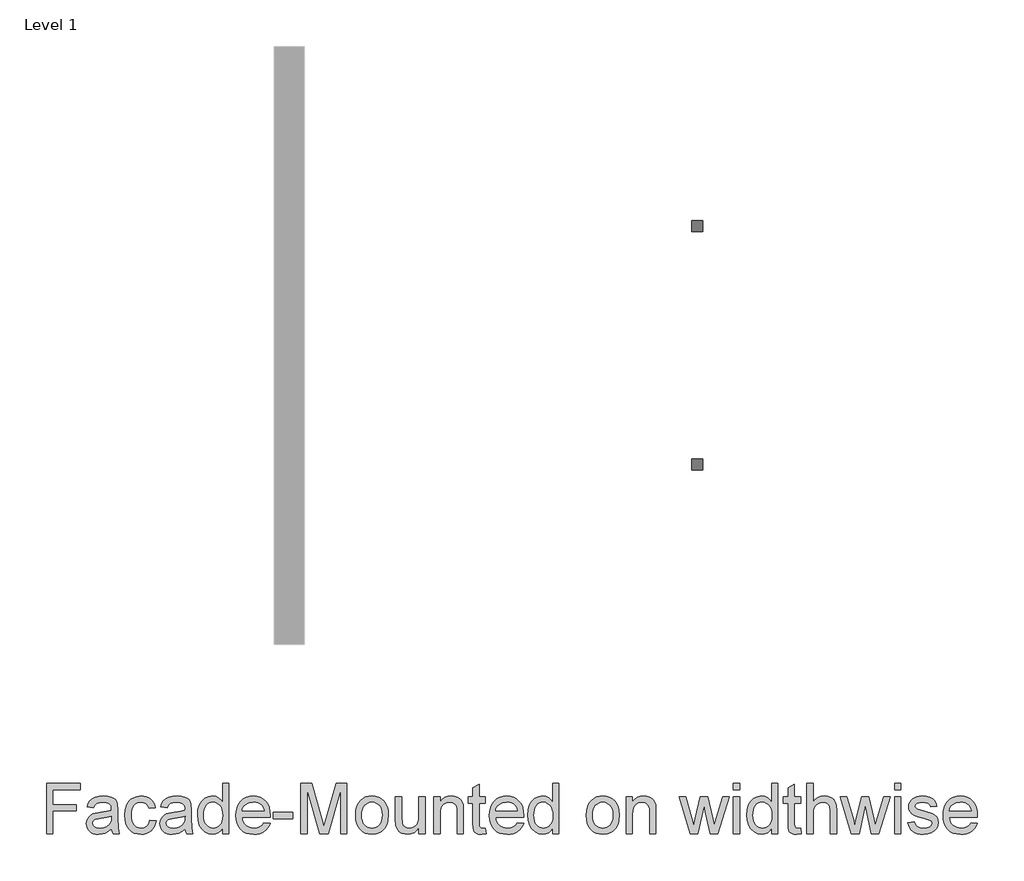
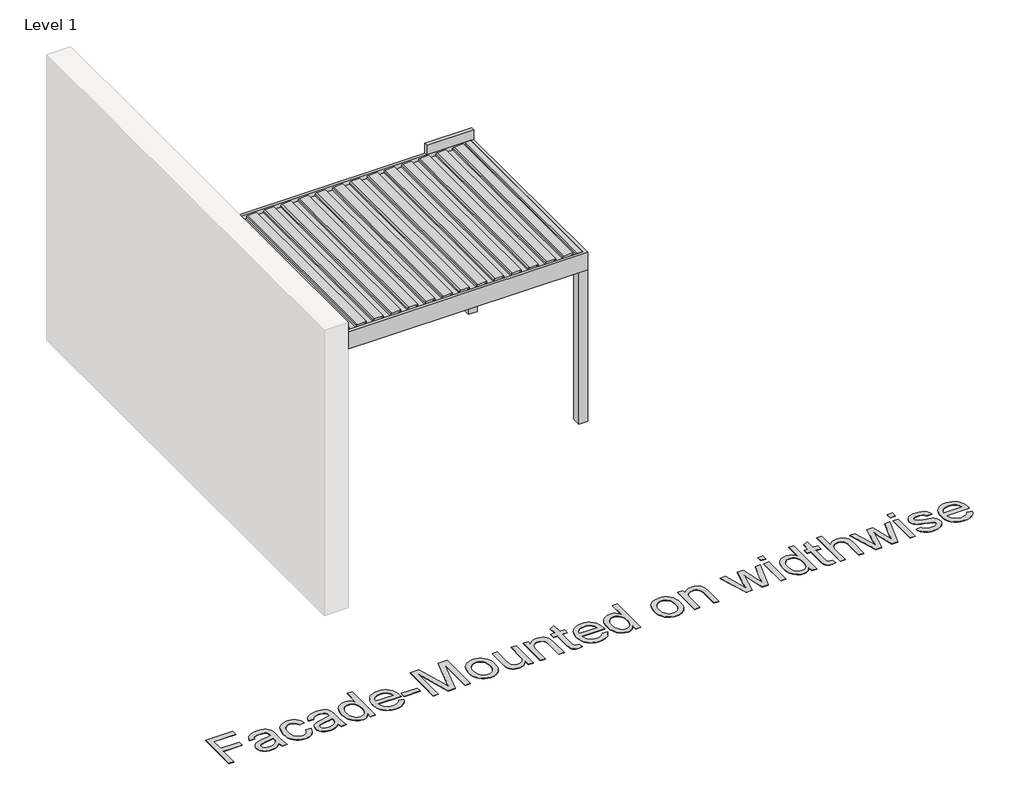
# One storey, part 27 of 47: 2 proxies.
"""IFC4 building model written with IfcOpenShell, lengths in millimetres."""

from ifc_helpers import new_model, si_unit, origin, origin_with_axes, place, context, project, spatial, polyline, outline, extrude, transform, mapped, element, save
from components import generic_models_1aad0606

model = new_model("IFC4")

# Units and contexts
model_context = context("Model", 3, world=origin())
ifc_project = project(units=[si_unit("LENGTHUNIT", "METRE", prefix="MILLI")], contexts=[model_context])

# Site, building, storey
site = spatial("IfcSite", under=ifc_project)
building = spatial("IfcBuilding", under=site)
storey = spatial("IfcBuildingStorey", under=building, Name="Level 1", Elevation=0.0)

# Proxies
placement = place(None, origin())
generic_models_shape = generic_models_1aad0606(model_context)
element("IfcBuildingElementProxy", 1, Name="Renson_Algarve_Single : Algarve - Single", ObjectType="Renson_Algarve_Single : Algarve - Single", at=placement, inside=storey, context=model_context, shape_type="MappedRepresentation", body=[
    mapped(generic_models_shape, transform((5781.4785763, 40772.1593685, 0.0), x_axis=(1.0, 0.0, 0.0), y_axis=(0.0, 1.0, 0.0), z_axis=(0.0, 0.0, 1.0))),
])
element("IfcBuildingElementProxy", 2, Name="500mm Arial", ObjectType="500mm Arial", at=placement, inside=storey, context=model_context, shape_type="SweptSolid", body=[
    extrude(outline(polyline([(1196.8462522, 35872.1593685), (1196.8462522, 36374.4409192), (1534.3166691, 36374.4409192), (1534.3166691, 36311.6557254), (1259.631446, 36311.6557254), (1259.631446, 36162.54089), (1495.0759229, 36162.54089), (1495.0759229, 36099.7556962), (1259.631446, 36099.7556962), (1259.631446, 35872.1593685), (1196.8462522, 35872.1593685)])), origin_with_axes(), (0.0, 0.0, 1.0), 5.0),
    extrude(outline(polyline([(1848.2426383, 35919.2482639), (1818.2449273, 35893.527181), (1787.3581681, 35876.6965797), (1754.8772536, 35867.4075594), (1720.0970767, 35864.3112192), (1692.1418771, 35866.1736218), (1667.6279071, 35871.7608296), (1646.5551666, 35881.0728426), (1628.9236555, 35894.1096608), (1615.0016213, 35910.0435498), (1605.0573111, 35928.0467749), (1599.090725, 35948.1193363), (1597.1018629, 35970.2612339), (1600.1062326, 35996.288885), (1609.1193414, 36019.9253032), (1623.0222152, 36040.1588129), (1640.6958794, 36055.9777387), (1661.4658837, 36067.9339036), (1684.6577778, 36076.5791305), (1738.9816857, 36086.021435), (1803.1770939, 36095.9542489), (1847.8747563, 36107.6038454), (1848.2426383, 36121.5833612), (1843.9200249, 36149.6037065), (1830.9521845, 36167.9364926), (1817.8770453, 36175.8766123), (1801.9508206, 36181.5481264), (1761.5451148, 36186.0853377), (1724.1437786, 36183.0656396), (1698.0241569, 36174.0065455), (1680.212537, 36157.2525863), (1667.735206, 36131.1482931), (1604.9500122, 36138.9964423), (1615.8485163, 36173.3320952), (1632.1119661, 36200.3101082), (1655.257875, 36220.9421567), (1686.8037561, 36236.2399164), (1725.3853803, 36245.7128777), (1769.6385187, 36248.8705315), (1812.0829039, 36246.0807597), (1845.728778, 36237.7114443), (1871.0973073, 36225.1268144), (1888.7096578, 36209.691099), (1900.3899111, 36190.6072205), (1907.9621489, 36167.0781013), (1911.0278322, 36112.1410567), (1911.0278322, 36034.0274463), (1914.2161428, 35924.9504348), (1918.937295, 35897.9877502), (1926.7241306, 35872.1593685), (1863.9389368, 35872.1593685), (1853.8834956, 35893.9870335), (1848.2426383, 35919.2482639)]), holes=[polyline([(1848.2426383, 36044.8186515), (1806.0588362, 36034.3646715), (1746.9524623, 36025.5661605), (1692.9351227, 36015.3880919), (1678.8789648, 36008.4289908), (1668.47097, 35998.8334021), (1662.0330351, 35987.3370898), (1659.8870568, 35974.6758178), (1664.5622238, 35956.0058065), (1678.5877249, 35940.7080469), (1701.6569916, 35930.4993215), (1733.4634558, 35927.0964131), (1767.185972, 35930.8518751), (1796.9844136, 35942.1182612), (1821.141998, 35958.7189363), (1837.9419424, 35978.4772651), (1845.3915528, 35998.8334021), (1847.8747563, 36027.0376884), (1848.2426383, 36044.8186515)])]), origin_with_axes(), (0.0, 0.0, 1.0), 5.0),
    extrude(outline(polyline([(2232.8019506, 36005.5779054), (2295.5871444, 35997.7297562), (2288.7583349, 35968.1037592), (2278.0820928, 35941.888335), (2263.5584182, 35919.0834834), (2245.1873111, 35899.6892044), (2223.7428565, 35884.2113359), (2199.9991394, 35873.1557155), (2173.9561598, 35866.5223433), (2145.6139177, 35864.3112192), (2110.400713, 35867.3960631), (2078.8280072, 35876.6505945), (2050.8958003, 35892.0748136), (2026.6040923, 35913.6687203), (2006.9415661, 35941.0261115), (1992.8969045, 35973.7407844), (1984.4701075, 36011.8127388), (1981.6611752, 36055.2419747), (1986.4589696, 36111.1140528), (2000.8523526, 36159.5365204), (2011.7048715, 36180.4866336), (2025.0712507, 36198.6393108), (2040.9514901, 36213.994552), (2059.3455899, 36226.5523572), (2100.3491039, 36243.2909879), (2144.7555264, 36248.8705315), (2172.6110912, 36246.9544795), (2197.8071758, 36241.2063233), (2220.3437801, 36231.626063), (2240.2209042, 36218.2136986), (2257.1013228, 36201.2757984), (2270.6478109, 36181.1189308), (2280.8603683, 36157.7430956), (2287.7389952, 36131.1482931), (2224.9538014, 36123.3001438), (2213.5647879, 36150.6920241), (2195.8298101, 36170.3277256), (2172.7298865, 36182.1459347), (2145.2460357, 36186.0853377), (2123.9127121, 36184.146293), (2104.6717174, 36178.329159), (2087.5230514, 36168.6339355), (2072.4667144, 36155.0606228), (2060.2078133, 36137.2949881), (2051.4514554, 36115.022799), (2046.1976406, 36088.2440554), (2044.4463691, 36056.9587574), (2046.1593196, 36025.2021106), (2051.2981712, 35998.1129666), (2059.8629239, 35975.6913254), (2071.8535777, 35957.937187), (2086.6110107, 35944.4443484), (2103.4761009, 35934.8066066), (2122.4488484, 35929.0239615), (2143.5292531, 35927.0964131), (2176.0408244, 35931.9095359), (2202.6969407, 35946.3489042), (2213.4766495, 35957.2704009), (2222.0873875, 35970.7824), (2232.8019506, 36005.5779054)])), origin_with_axes(), (0.0, 0.0, 1.0), 5.0),
    extrude(outline(polyline([(2585.968666, 35919.2482639), (2555.9709549, 35893.527181), (2525.0841958, 35876.6965797), (2492.6032813, 35867.4075594), (2457.8231043, 35864.3112192), (2429.8679048, 35866.1736218), (2405.3539348, 35871.7608296), (2384.2811942, 35881.0728426), (2366.6496832, 35894.1096608), (2352.7276489, 35910.0435498), (2342.7833387, 35928.0467749), (2336.8167526, 35948.1193363), (2334.8278906, 35970.2612339), (2337.8322602, 35996.288885), (2346.8453691, 36019.9253032), (2360.7482428, 36040.1588129), (2378.421907, 36055.9777387), (2399.1919113, 36067.9339036), (2422.3838054, 36076.5791305), (2476.7077134, 36086.021435), (2540.9031216, 36095.9542489), (2585.600784, 36107.6038454), (2585.968666, 36121.5833612), (2581.6460525, 36149.6037065), (2568.6782122, 36167.9364926), (2555.603073, 36175.8766123), (2539.6768482, 36181.5481264), (2499.2711424, 36186.0853377), (2461.8698063, 36183.0656396), (2435.7501846, 36174.0065455), (2417.9385647, 36157.2525863), (2405.4612337, 36131.1482931), (2342.6760398, 36138.9964423), (2353.5745439, 36173.3320952), (2369.8379938, 36200.3101082), (2392.9839027, 36220.9421567), (2424.5297838, 36236.2399164), (2463.111408, 36245.7128777), (2507.3645463, 36248.8705315), (2549.8089315, 36246.0807597), (2583.4548057, 36237.7114443), (2608.8233349, 36225.1268144), (2626.4356854, 36209.691099), (2638.1159388, 36190.6072205), (2645.6881765, 36167.0781013), (2648.7538598, 36112.1410567), (2648.7538598, 36034.0274463), (2651.9421704, 35924.9504348), (2656.6633227, 35897.9877502), (2664.4501583, 35872.1593685), (2601.6649644, 35872.1593685), (2591.6095232, 35893.9870335), (2585.968666, 35919.2482639)]), holes=[polyline([(2585.968666, 36044.8186515), (2543.7848639, 36034.3646715), (2484.67849, 36025.5661605), (2430.6611503, 36015.3880919), (2416.6049924, 36008.4289908), (2406.1969977, 35998.8334021), (2399.7590627, 35987.3370898), (2397.6130844, 35974.6758178), (2402.2882515, 35956.0058065), (2416.3137525, 35940.7080469), (2439.3830193, 35930.4993215), (2471.1894835, 35927.0964131), (2504.9119997, 35930.8518751), (2534.7104413, 35942.1182612), (2558.8680257, 35958.7189363), (2575.6679701, 35978.4772651), (2583.1175805, 35998.8334021), (2585.600784, 36027.0376884), (2585.968666, 36044.8186515)])]), origin_with_axes(), (0.0, 0.0, 1.0), 5.0),
    extrude(outline(polyline([(2962.679829, 35872.1593685), (2962.679829, 35931.3883697), (2943.8948547, 35902.0421164), (2921.1398204, 35881.0805069), (2894.4147263, 35868.5035411), (2863.7195723, 35864.3112192), (2823.1299255, 35870.3812722), (2785.973844, 35888.5914309), (2754.5199334, 35917.669437), (2731.0367994, 35956.3430317), (2716.4134901, 36003.0487167), (2711.5390537, 36056.2229934), (2716.0302797, 36108.7381482), (2729.5039578, 36156.1642687), (2739.6053842, 36177.2944908), (2751.9447595, 36195.8035537), (2766.5220835, 36211.6914574), (2783.3373564, 36224.9582018), (2821.305844, 36242.8924491), (2863.4743177, 36248.8705315), (2894.1924643, 36244.5939033), (2921.3544182, 36231.7640188), (2944.3776998, 36212.0976604), (2962.679829, 36187.311611), (2962.679829, 36374.4409192), (3025.4650229, 36374.4409192), (3025.4650229, 35872.1593685), (2962.679829, 35872.1593685)]), holes=[polyline([(2774.3242475, 36056.4682481), (2776.0946796, 36026.0221808), (2781.4059759, 35999.676465), (2790.2581364, 35977.4311007), (2802.6511611, 35959.2860877), (2817.4507472, 35945.203105), (2833.5225919, 35935.1438317), (2850.8666951, 35929.1082677), (2869.4830569, 35927.0964131), (2888.1875571, 35929.0162972), (2905.4281935, 35934.7759497), (2921.2049662, 35944.3753705), (2935.5178751, 35957.8145597), (2947.4012299, 35975.2008161), (2955.8893405, 35996.6414386), (2960.9822069, 36022.1364273), (2962.679829, 36051.6857821), (2960.9515501, 36084.0823903), (2955.7667132, 36111.8651452), (2947.1253184, 36135.0340466), (2935.0273657, 36153.5890948), (2920.4002243, 36167.8062011), (2904.1712634, 36177.961277), (2886.3404829, 36184.0543225), (2866.907883, 36186.0853377), (2847.9236392, 36184.1347967), (2830.5795359, 36178.2831737), (2814.8755733, 36168.5304687), (2800.8117512, 36154.8766818), (2789.2234683, 36137.0229087), (2780.9461234, 36114.6702454), (2775.9797165, 36087.8186918), (2774.3242475, 36056.4682481)])]), origin_with_axes(), (0.0, 0.0, 1.0), 5.0),
    extrude(outline(polyline([(3377.8959743, 35982.0334577), (3439.4548948, 35974.1853085), (3430.0164223, 35949.5295506), (3417.2746762, 35927.8015202), (3401.2296562, 35909.0012174), (3381.8813625, 35893.1286422), (3359.4290645, 35880.5210197), (3334.0720316, 35871.515575), (3305.8102637, 35866.1123082), (3274.6437609, 35864.3112192), (3235.6865905, 35867.4190557), (3200.9753914, 35876.742565), (3170.5101637, 35892.2817472), (3144.2909073, 35914.0366023), (3123.2066705, 35941.4016577), (3108.1465013, 35973.7714412), (3099.1103998, 36011.1459527), (3096.0983659, 36053.5251921), (3099.1410566, 36097.3414706), (3108.2691286, 36135.9614158), (3123.482582, 36169.3850279), (3144.7814166, 36197.6123069), (3170.9316951, 36220.0377802), (3200.6994799, 36236.0559754), (3234.084771, 36245.6668925), (3271.0875683, 36248.8705315), (3306.8985813, 36245.6745567), (3339.2836932, 36236.0866322), (3368.242904, 36220.106758), (3393.7762137, 36197.7349342), (3414.619028, 36169.5689689), (3429.5067525, 36136.2066705), (3438.4393872, 36097.6480389), (3441.4169321, 36053.8930741), (3441.0490501, 36036.9705023), (3158.8835598, 36036.9705023), (3162.5202266, 36011.9162056), (3169.7514071, 35989.9735774), (3180.5771012, 35971.1426178), (3194.997309, 35955.4233267), (3212.2149528, 35943.030302), (3231.4329549, 35934.1781415), (3252.6513154, 35928.8668452), (3275.8700343, 35927.0964131), (3309.2859822, 35930.3766942), (3337.4289548, 35940.2175376), (3360.2989522, 35957.2320799), (3377.8959743, 35982.0334577)]), holes=[polyline([(3158.8835598, 36099.7556962), (3378.6317382, 36099.7556962), (3370.1397955, 36132.9263894), (3353.4931352, 36156.6547781), (3336.371294, 36169.5306479), (3316.8888767, 36178.7276978), (3295.0458833, 36184.2459277), (3270.8423137, 36186.0853377), (3228.5205558, 36180.2145542), (3210.1072955, 36172.8760748), (3193.525781, 36162.6022037), (3179.611411, 36149.8681217), (3169.1995841, 36135.1490098), (3162.2903004, 36118.4448679), (3158.8835598, 36099.7556962)])]), origin_with_axes(), (0.0, 0.0, 1.0), 5.0),
    extrude(outline(polyline([(3472.809529, 36021.2742038), (3472.809529, 36084.0593977), (3669.0132598, 36084.0593977), (3669.0132598, 36021.2742038), (3472.809529, 36021.2742038)])), origin_with_axes(), (0.0, 0.0, 1.0), 5.0),
    extrude(outline(polyline([(3747.4947521, 35872.1593685), (3747.4947521, 36374.4409192), (3855.5294313, 36374.4409192), (3958.2911353, 36020.4158125), (3979.0151544, 35946.4715315), (4001.4559561, 36026.5471791), (4102.5008774, 36374.4409192), (4210.5355567, 36374.4409192), (4210.5355567, 35872.1593685), (4147.7503628, 35872.1593685), (4147.7503628, 36311.6557254), (4021.5668385, 35872.1593685), (3936.4634703, 35872.1593685), (3810.2799459, 36311.6557254), (3810.2799459, 35872.1593685), (3747.4947521, 35872.1593685)])), origin_with_axes(), (0.0, 0.0, 1.0), 5.0),
    extrude(outline(polyline([(4296.8651982, 36056.5908754), (4300.2604425, 36104.3618853), (4310.4461752, 36145.5263477), (4327.4223964, 36180.0842626), (4351.1891062, 36208.0356301), (4375.1167643, 36225.9008995), (4401.5276258, 36238.6618062), (4430.4216909, 36246.3183502), (4461.7989594, 36248.8705315), (4496.4373485, 36245.7626951), (4527.7571354, 36236.4391858), (4555.7583202, 36220.9000036), (4580.4409028, 36199.1451485), (4600.5862742, 36171.9103846), (4614.9758251, 36139.9314757), (4623.6095557, 36103.208422), (4626.4874659, 36061.7412233), (4621.3984316, 35998.312236), (4615.0371388, 35972.2769206), (4606.1313288, 35950.0277241), (4594.7921327, 35930.809722), (4581.1306816, 35913.8679897), (4565.1469753, 35899.2025272), (4546.8410139, 35886.8133346), (4506.1134114, 35869.9367481), (4461.7989594, 35864.3112192), (4426.6547325, 35867.4075594), (4395.0437057, 35876.6965797), (4366.9658788, 35892.1782804), (4342.4212519, 35913.8526613), (4322.4904784, 35941.3518404), (4308.2542116, 35974.3079358), (4299.7124516, 36012.7209475), (4296.8651982, 36056.5908754)]), holes=[polyline([(4359.650392, 36056.7135027), (4361.4668094, 36026.2597713), (4366.9160615, 35999.8910629), (4375.9981482, 35977.6073774), (4388.7130697, 35959.408715), (4404.1794419, 35945.2720829), (4421.5158809, 35935.1744886), (4440.7223867, 35929.115932), (4461.7989594, 35927.0964131), (4482.7682331, 35929.1274283), (4501.8980968, 35935.2204738), (4519.1885506, 35945.3755497), (4534.6395944, 35959.592656), (4547.3545159, 35977.9714273), (4556.4366026, 36000.6114985), (4561.8858547, 36027.5128693), (4563.702272, 36058.67554), (4561.8743584, 36088.1635812), (4556.3906174, 36113.8425109), (4547.2510491, 36135.7123291), (4534.4556534, 36153.7730358), (4518.9471281, 36167.9096679), (4501.6681706, 36178.0072622), (4482.618781, 36184.0658188), (4461.7989594, 36186.0853377), (4440.7223867, 36184.073483), (4421.5158809, 36178.037919), (4404.1794419, 36167.9786457), (4388.7130697, 36153.8956631), (4375.9981482, 36135.7506501), (4366.9160615, 36113.5052857), (4361.4668094, 36087.1595699), (4359.650392, 36056.7135027)])]), origin_with_axes(), (0.0, 0.0, 1.0), 5.0),
    extrude(outline(polyline([(4932.5652859, 35872.1593685), (4932.5652859, 35935.557699), (4909.8485727, 35904.3873641), (4883.3917258, 35882.1228392), (4853.1947454, 35868.7641242), (4819.2576314, 35864.3112192), (4788.6774405, 35867.4382162), (4760.2125711, 35876.8192071), (4736.3308983, 35890.9213502), (4719.500297, 35908.211804), (4708.1725972, 35929.2117346), (4700.7996289, 35954.4423081), (4697.120809, 36012.812918), (4697.120809, 36241.0223823), (4759.9060028, 36241.0223823), (4759.9060028, 36042.3661049), (4763.7074501, 35978.3546377), (4772.8585147, 35957.0021536), (4788.5394848, 35940.7693606), (4809.7080279, 35930.51465), (4835.3218118, 35927.0964131), (4862.4071237, 35930.591292), (4887.7449961, 35941.0759289), (4908.6376278, 35957.5846334), (4922.3872173, 35979.1517154), (4930.0207687, 36008.6895739), (4932.5652859, 36049.1106081), (4932.5652859, 36241.0223823), (4995.3504797, 36241.0223823), (4995.3504797, 35872.1593685), (4932.5652859, 35872.1593685)])), origin_with_axes(), (0.0, 0.0, 1.0), 5.0),
    extrude(outline(polyline([(5081.6801212, 35872.1593685), (5081.6801212, 36241.0223823), (5144.4653151, 36241.0223823), (5144.4653151, 36189.518903), (5166.2776517, 36215.4852405), (5192.4739155, 36234.0326244), (5223.0541063, 36245.1610547), (5258.0182243, 36248.8705315), (5288.9662971, 36245.8814903), (5317.3085392, 36236.9143667), (5340.9449573, 36223.088135), (5357.7755586, 36205.5217698), (5369.1952289, 36184.2612561), (5376.598854, 36159.3525794), (5379.909792, 36098.6520502), (5379.909792, 35872.1593685), (5317.1245982, 35872.1593685), (5317.1245982, 36090.1907643), (5315.315845, 36122.6563504), (5309.8895856, 36145.7409455), (5299.8801296, 36162.2803069), (5284.3217869, 36175.1101915), (5264.3795171, 36183.3415511), (5241.2182798, 36186.0853377), (5222.1535618, 36184.5448318), (5204.4454087, 36179.9233143), (5188.0938205, 36172.220785), (5173.098797, 36161.437244), (5160.5716487, 36146.346418), (5151.6236856, 36125.7220336), (5146.2549077, 36099.5640909), (5144.4653151, 36067.8725899), (5144.4653151, 35872.1593685), (5081.6801212, 35872.1593685)])), origin_with_axes(), (0.0, 0.0, 1.0), 5.0),
    extrude(outline(polyline([(5599.6579705, 35924.5212391), (5607.5061197, 35870.3199585), (5560.5398516, 35864.3112192), (5530.4041849, 35866.91705), (5507.9327263, 35874.7345424), (5492.0524869, 35886.7826778), (5481.6904773, 35902.0804374), (5475.9883064, 35928.3533432), (5474.0875828, 35973.3269171), (5474.0875828, 36178.2371885), (5426.9986874, 36178.2371885), (5426.9986874, 36241.0223823), (5474.0875828, 36241.0223823), (5474.0875828, 36330.6629618), (5536.8727766, 36367.5737886), (5536.8727766, 36241.0223823), (5599.6579705, 36241.0223823), (5599.6579705, 36178.2371885), (5536.8727766, 36178.2371885), (5536.8727766, 35975.1663271), (5540.1837146, 35942.7927115), (5550.9136061, 35931.327056), (5572.3120755, 35927.0964131), (5599.6579705, 35924.5212391)])), origin_with_axes(), (0.0, 0.0, 1.0), 5.0),
    extrude(outline(polyline([(5920.6963249, 35982.0334577), (5982.2552454, 35974.1853085), (5972.816773, 35949.5295506), (5960.0750268, 35927.8015202), (5944.0300069, 35909.0012174), (5924.6817132, 35893.1286422), (5902.2294152, 35880.5210197), (5876.8723822, 35871.515575), (5848.6106144, 35866.1123082), (5817.4441116, 35864.3112192), (5778.4869412, 35867.4190557), (5743.7757421, 35876.742565), (5713.3105143, 35892.2817472), (5687.091258, 35914.0366023), (5666.0070211, 35941.4016577), (5650.946852, 35973.7714412), (5641.9107504, 36011.1459527), (5638.8987166, 36053.5251921), (5641.9414073, 36097.3414706), (5651.0694793, 36135.9614158), (5666.2829326, 36169.3850279), (5687.5817673, 36197.6123069), (5713.7320458, 36220.0377802), (5743.4998306, 36236.0559754), (5776.8851216, 36245.6668925), (5813.887919, 36248.8705315), (5849.6989319, 36245.6745567), (5882.0840438, 36236.0866322), (5911.0432546, 36220.106758), (5936.5765644, 36197.7349342), (5957.4193787, 36169.5689689), (5972.3071032, 36136.2066705), (5981.2397379, 36097.6480389), (5984.2172827, 36053.8930741), (5983.8494008, 36036.9705023), (5701.6839105, 36036.9705023), (5705.3205773, 36011.9162056), (5712.5517577, 35989.9735774), (5723.3774519, 35971.1426178), (5737.7976596, 35955.4233267), (5755.0153034, 35943.030302), (5774.2333056, 35934.1781415), (5795.4516661, 35928.8668452), (5818.6703849, 35927.0964131), (5852.0863328, 35930.3766942), (5880.2293054, 35940.2175376), (5903.0993028, 35957.2320799), (5920.6963249, 35982.0334577)]), holes=[polyline([(5701.6839105, 36099.7556962), (5921.4320889, 36099.7556962), (5912.9401462, 36132.9263894), (5896.2934859, 36156.6547781), (5879.1716447, 36169.5306479), (5859.6892274, 36178.7276978), (5837.8462339, 36184.2459277), (5813.6426643, 36186.0853377), (5771.3209065, 36180.2145542), (5752.9076462, 36172.8760748), (5736.3261317, 36162.6022037), (5722.4117616, 36149.8681217), (5711.9999347, 36135.1490098), (5705.090651, 36118.4448679), (5701.6839105, 36099.7556962)])]), origin_with_axes(), (0.0, 0.0, 1.0), 5.0),
    extrude(outline(polyline([(6274.5988043, 35872.1593685), (6274.5988043, 35931.3883697), (6255.8138299, 35902.0421164), (6233.0587957, 35881.0805069), (6206.3337015, 35868.5035411), (6175.6385476, 35864.3112192), (6135.0489008, 35870.3812722), (6097.8928193, 35888.5914309), (6066.4389087, 35917.669437), (6042.9557746, 35956.3430317), (6028.3324653, 36003.0487167), (6023.4580289, 36056.2229934), (6027.9492549, 36108.7381482), (6041.422933, 36156.1642687), (6051.5243594, 36177.2944908), (6063.8637347, 36195.8035537), (6078.4410588, 36211.6914574), (6095.2563316, 36224.9582018), (6133.2248192, 36242.8924491), (6175.3932929, 36248.8705315), (6206.1114395, 36244.5939033), (6233.2733935, 36231.7640188), (6256.296675, 36212.0976604), (6274.5988043, 36187.311611), (6274.5988043, 36374.4409192), (6337.3839981, 36374.4409192), (6337.3839981, 35872.1593685), (6274.5988043, 35872.1593685)]), holes=[polyline([(6086.2432227, 36056.4682481), (6088.0136548, 36026.0221808), (6093.3249512, 35999.676465), (6102.1771117, 35977.4311007), (6114.5701364, 35959.2860877), (6129.3697225, 35945.203105), (6145.4415671, 35935.1438317), (6162.7856704, 35929.1082677), (6181.4020322, 35927.0964131), (6200.1065324, 35929.0162972), (6217.3471688, 35934.7759497), (6233.1239414, 35944.3753705), (6247.4368503, 35957.8145597), (6259.3202052, 35975.2008161), (6267.8083158, 35996.6414386), (6272.9011822, 36022.1364273), (6274.5988043, 36051.6857821), (6272.8705253, 36084.0823903), (6267.6856884, 36111.8651452), (6259.0442937, 36135.0340466), (6246.946341, 36153.5890948), (6232.3191996, 36167.8062011), (6216.0902386, 36177.961277), (6198.2594582, 36184.0543225), (6178.8268582, 36186.0853377), (6159.8426144, 36184.1347967), (6142.4985112, 36178.2831737), (6126.7945485, 36168.5304687), (6112.7307264, 36154.8766818), (6101.1424435, 36137.0229087), (6092.8650987, 36114.6702454), (6087.8986917, 36087.8186918), (6086.2432227, 36056.4682481)])]), origin_with_axes(), (0.0, 0.0, 1.0), 5.0),
    extrude(outline(polyline([(6612.0692212, 36056.5908754), (6615.4644654, 36104.3618853), (6625.6501982, 36145.5263477), (6642.6264194, 36180.0842626), (6666.3931291, 36208.0356301), (6690.3207872, 36225.9008995), (6716.7316488, 36238.6618062), (6745.6257138, 36246.3183502), (6777.0029824, 36248.8705315), (6811.6413715, 36245.7626951), (6842.9611584, 36236.4391858), (6870.9623432, 36220.9000036), (6895.6449258, 36199.1451485), (6915.7902971, 36171.9103846), (6930.1798481, 36139.9314757), (6938.8135787, 36103.208422), (6941.6914889, 36061.7412233), (6936.6024546, 35998.312236), (6930.2411618, 35972.2769206), (6921.3353518, 35950.0277241), (6909.9961557, 35930.809722), (6896.3347045, 35913.8679897), (6880.3509983, 35899.2025272), (6862.0450369, 35886.8133346), (6821.3174344, 35869.9367481), (6777.0029824, 35864.3112192), (6741.8587555, 35867.4075594), (6710.2477286, 35876.6965797), (6682.1699018, 35892.1782804), (6657.6252749, 35913.8526613), (6637.6945014, 35941.3518404), (6623.4582346, 35974.3079358), (6614.9164745, 36012.7209475), (6612.0692212, 36056.5908754)]), holes=[polyline([(6674.854415, 36056.7135027), (6676.6708324, 36026.2597713), (6682.1200844, 35999.8910629), (6691.2021712, 35977.6073774), (6703.9170926, 35959.408715), (6719.3834649, 35945.2720829), (6736.7199039, 35935.1744886), (6755.9264097, 35929.115932), (6777.0029824, 35927.0964131), (6797.9722561, 35929.1274283), (6817.1021198, 35935.2204738), (6834.3925736, 35945.3755497), (6849.8436174, 35959.592656), (6862.5585389, 35977.9714273), (6871.6406256, 36000.6114985), (6877.0898777, 36027.5128693), (6878.906295, 36058.67554), (6877.0783814, 36088.1635812), (6871.5946404, 36113.8425109), (6862.455072, 36135.7123291), (6849.6596764, 36153.7730358), (6834.151151, 36167.9096679), (6816.8721936, 36178.0072622), (6797.822804, 36184.0658188), (6777.0029824, 36186.0853377), (6755.9264097, 36184.073483), (6736.7199039, 36178.037919), (6719.3834649, 36167.9786457), (6703.9170926, 36153.8956631), (6691.2021712, 36135.7506501), (6682.1200844, 36113.5052857), (6676.6708324, 36087.1595699), (6674.854415, 36056.7135027)])]), origin_with_axes(), (0.0, 0.0, 1.0), 5.0),
    extrude(outline(polyline([(7012.3248319, 35872.1593685), (7012.3248319, 36241.0223823), (7075.1100258, 36241.0223823), (7075.1100258, 36189.518903), (7096.9223624, 36215.4852405), (7123.1186262, 36234.0326244), (7153.698817, 36245.1610547), (7188.662935, 36248.8705315), (7219.6110078, 36245.8814903), (7247.9532498, 36236.9143667), (7271.589668, 36223.088135), (7288.4202693, 36205.5217698), (7299.8399396, 36184.2612561), (7307.2435647, 36159.3525794), (7310.5545027, 36098.6520502), (7310.5545027, 35872.1593685), (7247.7693088, 35872.1593685), (7247.7693088, 36090.1907643), (7245.9605557, 36122.6563504), (7240.5342963, 36145.7409455), (7230.5248403, 36162.2803069), (7214.9664976, 36175.1101915), (7195.0242278, 36183.3415511), (7171.8629905, 36186.0853377), (7152.7982725, 36184.5448318), (7135.0901194, 36179.9233143), (7118.7385311, 36172.220785), (7103.7435077, 36161.437244), (7091.2163594, 36146.346418), (7082.2683963, 36125.7220336), (7076.8996184, 36099.5640909), (7075.1100258, 36067.8725899), (7075.1100258, 35872.1593685), (7012.3248319, 35872.1593685)])), origin_with_axes(), (0.0, 0.0, 1.0), 5.0),
    extrude(outline(polyline([(7654.2789135, 35872.1593685), (7542.074905, 36241.0223823), (7607.3126455, 36241.0223823), (7670.9562306, 36025.8114151), (7689.9634671, 35948.9240781), (7705.5371382, 36022.9909865), (7756.1822262, 36241.0223823), (7830.9848985, 36241.0223823), (7881.3847319, 36023.6041232), (7895.2416204, 35956.5269727), (7915.1072481, 36027.2829431), (7978.8734606, 36241.0223823), (8044.3564557, 36241.0223823), (7931.2940559, 35872.1593685), (7855.3877375, 35872.1593685), (7807.1951962, 36088.4739816), (7793.2156804, 36155.9190141), (7731.0436232, 35872.1593685), (7654.2789135, 35872.1593685)])), origin_with_axes(), (0.0, 0.0, 1.0), 5.0),
    extrude(outline(polyline([(8087.5212765, 36311.6557254), (8087.5212765, 36374.4409192), (8150.3064703, 36374.4409192), (8150.3064703, 36311.6557254), (8087.5212765, 36311.6557254)])), origin_with_axes(), (0.0, 0.0, 1.0), 5.0),
    extrude(outline(polyline([(8087.5212765, 35872.1593685), (8087.5212765, 36241.0223823), (8150.3064703, 36241.0223823), (8150.3064703, 35872.1593685), (8087.5212765, 35872.1593685)])), origin_with_axes(), (0.0, 0.0, 1.0), 5.0),
    extrude(outline(polyline([(8472.0805888, 35872.1593685), (8472.0805888, 35931.3883697), (8453.2956144, 35902.0421164), (8430.5405802, 35881.0805069), (8403.8154861, 35868.5035411), (8373.1203321, 35864.3112192), (8332.5306853, 35870.3812722), (8295.3746038, 35888.5914309), (8263.9206932, 35917.669437), (8240.4375592, 35956.3430317), (8225.8142499, 36003.0487167), (8220.9398134, 36056.2229934), (8225.4310394, 36108.7381482), (8238.9047175, 36156.1642687), (8249.006144, 36177.2944908), (8261.3455192, 36195.8035537), (8275.9228433, 36211.6914574), (8292.7381161, 36224.9582018), (8330.7066037, 36242.8924491), (8372.8750774, 36248.8705315), (8403.593224, 36244.5939033), (8430.755178, 36231.7640188), (8453.7784595, 36212.0976604), (8472.0805888, 36187.311611), (8472.0805888, 36374.4409192), (8534.8657826, 36374.4409192), (8534.8657826, 35872.1593685), (8472.0805888, 35872.1593685)]), holes=[polyline([(8283.7250073, 36056.4682481), (8285.4954394, 36026.0221808), (8290.8067357, 35999.676465), (8299.6588962, 35977.4311007), (8312.0519209, 35959.2860877), (8326.851507, 35945.203105), (8342.9233517, 35935.1438317), (8360.2674549, 35929.1082677), (8378.8838167, 35927.0964131), (8397.5883169, 35929.0162972), (8414.8289533, 35934.7759497), (8430.6057259, 35944.3753705), (8444.9186348, 35957.8145597), (8456.8019897, 35975.2008161), (8465.2901003, 35996.6414386), (8470.3829667, 36022.1364273), (8472.0805888, 36051.6857821), (8470.3523098, 36084.0823903), (8465.167473, 36111.8651452), (8456.5260782, 36135.0340466), (8444.4281255, 36153.5890948), (8429.8009841, 36167.8062011), (8413.5720231, 36177.961277), (8395.7412427, 36184.0543225), (8376.3086427, 36186.0853377), (8357.3243989, 36184.1347967), (8339.9802957, 36178.2831737), (8324.276333, 36168.5304687), (8310.2125109, 36154.8766818), (8298.6242281, 36137.0229087), (8290.3468832, 36114.6702454), (8285.3804762, 36087.8186918), (8283.7250073, 36056.4682481)])]), origin_with_axes(), (0.0, 0.0, 1.0), 5.0),
    extrude(outline(polyline([(8762.4621103, 35924.5212391), (8770.3102596, 35870.3199585), (8723.3439915, 35864.3112192), (8693.2083247, 35866.91705), (8670.7368662, 35874.7345424), (8654.8566267, 35886.7826778), (8644.4946172, 35902.0804374), (8638.7924463, 35928.3533432), (8636.8917226, 35973.3269171), (8636.8917226, 36178.2371885), (8589.8028273, 36178.2371885), (8589.8028273, 36241.0223823), (8636.8917226, 36241.0223823), (8636.8917226, 36330.6629618), (8699.6769165, 36367.5737886), (8699.6769165, 36241.0223823), (8762.4621103, 36241.0223823), (8762.4621103, 36178.2371885), (8699.6769165, 36178.2371885), (8699.6769165, 35975.1663271), (8702.9878544, 35942.7927115), (8713.717746, 35931.327056), (8735.1162153, 35927.0964131), (8762.4621103, 35924.5212391)])), origin_with_axes(), (0.0, 0.0, 1.0), 5.0),
    extrude(outline(polyline([(8825.2473042, 35872.1593685), (8825.2473042, 36374.4409192), (8888.032498, 36374.4409192), (8888.032498, 36189.7641576), (8911.0941006, 36215.6231962), (8936.9914602, 36234.0939381), (8965.7245769, 36245.1763832), (8997.2934506, 36248.8705315), (9035.2159529, 36244.839158), (9067.8041663, 36232.7450374), (9093.4639355, 36213.5385316), (9110.6011051, 36188.1700023), (9120.2580075, 36153.3131833), (9123.4769749, 36105.6418081), (9123.4769749, 35872.1593685), (9060.6917811, 35872.1593685), (9060.6917811, 36099.1425595), (9055.6947173, 36138.4446193), (9049.4483876, 36153.451139), (9040.703526, 36165.3613186), (9029.6670662, 36174.428077), (9016.5459417, 36180.9043329), (8984.0496988, 36186.0853377), (8957.5162098, 36182.5904587), (8932.6075331, 36172.1058219), (8911.9754845, 36155.6431026), (8898.2718802, 36134.2139764), (8890.5923436, 36105.7337786), (8888.032498, 36068.1178446), (8888.032498, 35872.1593685), (8825.2473042, 35872.1593685)])), origin_with_axes(), (0.0, 0.0, 1.0), 5.0),
    extrude(outline(polyline([(9270.997655, 35872.1593685), (9158.7936465, 36241.0223823), (9224.0313869, 36241.0223823), (9287.6749721, 36025.8114151), (9306.6822085, 35948.9240781), (9322.2558797, 36022.9909865), (9372.9009677, 36241.0223823), (9447.70364, 36241.0223823), (9498.1034733, 36023.6041232), (9511.9603618, 35956.5269727), (9531.8259896, 36027.2829431), (9595.5922021, 36241.0223823), (9661.0751972, 36241.0223823), (9548.0127974, 35872.1593685), (9472.106479, 35872.1593685), (9423.9139377, 36088.4739816), (9409.9344218, 36155.9190141), (9347.7623646, 35872.1593685), (9270.997655, 35872.1593685)])), origin_with_axes(), (0.0, 0.0, 1.0), 5.0),
    extrude(outline(polyline([(9704.240018, 36311.6557254), (9704.240018, 36374.4409192), (9767.0252118, 36374.4409192), (9767.0252118, 36311.6557254), (9704.240018, 36311.6557254)])), origin_with_axes(), (0.0, 0.0, 1.0), 5.0),
    extrude(outline(polyline([(9704.240018, 35872.1593685), (9704.240018, 36241.0223823), (9767.0252118, 36241.0223823), (9767.0252118, 35872.1593685), (9704.240018, 35872.1593685)])), origin_with_axes(), (0.0, 0.0, 1.0), 5.0),
    extrude(outline(polyline([(9837.6585549, 35982.0334577), (9900.4437487, 35989.8816069), (9910.3459058, 35963.0262213), (9929.5064264, 35943.2832209), (9958.0479378, 35931.143115), (9996.0930675, 35927.0964131), (10033.6783447, 35930.8058899), (10060.1045346, 35941.9343202), (10075.7395194, 35958.0598143), (10080.951181, 35976.7604824), (10075.7088626, 35992.7633492), (10059.9819073, 36004.9647687), (9995.3573035, 36022.8683592), (9938.0596827, 36039.4383774), (9900.8116307, 36053.5865058), (9876.8839726, 36069.0222211), (9859.5475336, 36089.4550003), (9849.0169115, 36113.5819278), (9845.5067041, 36140.1000883), (9848.3271328, 36164.4262852), (9856.7884186, 36186.8824153), (9870.124141, 36206.5794305), (9887.5678789, 36222.6282825), (9904.9043179, 36232.729709), (9927.4830754, 36241.2063233), (9953.5873686, 36246.9544795), (9981.500415, 36248.8705315), (10022.3659733, 36245.7895198), (10057.8972427, 36236.5464847), (10086.469411, 36222.0458027), (10106.457666, 36203.1918505), (10119.7014179, 36178.589742), (10128.0400764, 36146.8445915), (10065.2548826, 36138.9964423), (10057.3300913, 36158.7547711), (10041.6491212, 36173.6386635), (10018.0586883, 36182.9736691), (9986.4055083, 36186.0853377), (9950.3530727, 36183.1116249), (9926.3181157, 36174.1904865), (9912.7984524, 36161.3146167), (9908.291898, 36146.4767095), (9910.1619648, 36136.8198072), (9915.7721652, 36128.2052371), (9925.3677539, 36120.510372), (9939.1939856, 36114.3483486), (9993.2726389, 36100.9819695), (10085.4270786, 36071.4287825), (10109.768604, 36057.2959825), (10128.2240174, 36037.951521), (10139.8582855, 36013.3340841), (10143.7363749, 35983.3823583), (10139.1838352, 35952.4189571), (10125.5262161, 35923.2949658), (10103.2846838, 35898.2943185), (10072.9804045, 35879.7009494), (10036.376146, 35868.1586518), (9995.2346762, 35864.3112192), (9961.4431821, 35866.1659576), (9931.9283162, 35871.7301728), (9906.6900784, 35881.0038648), (9885.7284689, 35893.9870335), (9868.6066277, 35910.6183654), (9854.887695, 35930.8365467), (9844.5716707, 35954.6415775), (9837.6585549, 35982.0334577)])), origin_with_axes(), (0.0, 0.0, 1.0), 5.0),
    extrude(outline(polyline([(10472.6228786, 35982.0334577), (10534.1817991, 35974.1853085), (10524.7433267, 35949.5295506), (10512.0015805, 35927.8015202), (10495.9565605, 35909.0012174), (10476.6082668, 35893.1286422), (10454.1559688, 35880.5210197), (10428.7989359, 35871.515575), (10400.537168, 35866.1123082), (10369.3706653, 35864.3112192), (10330.4134948, 35867.4190557), (10295.7022957, 35876.742565), (10265.237068, 35892.2817472), (10239.0178116, 35914.0366023), (10217.9335748, 35941.4016577), (10202.8734056, 35973.7714412), (10193.8373041, 36011.1459527), (10190.8252703, 36053.5251921), (10193.8679609, 36097.3414706), (10202.9960329, 36135.9614158), (10218.2094863, 36169.3850279), (10239.508321, 36197.6123069), (10265.6585994, 36220.0377802), (10295.4263842, 36236.0559754), (10328.8116753, 36245.6668925), (10365.8144726, 36248.8705315), (10401.6254856, 36245.6745567), (10434.0105975, 36236.0866322), (10462.9698083, 36220.106758), (10488.503118, 36197.7349342), (10509.3459323, 36169.5689689), (10524.2336568, 36136.2066705), (10533.1662915, 36097.6480389), (10536.1438364, 36053.8930741), (10535.7759544, 36036.9705023), (10253.6104641, 36036.9705023), (10257.2471309, 36011.9162056), (10264.4783114, 35989.9735774), (10275.3040055, 35971.1426178), (10289.7242133, 35955.4233267), (10306.9418571, 35943.030302), (10326.1598592, 35934.1781415), (10347.3782197, 35928.8668452), (10370.5969386, 35927.0964131), (10404.0128865, 35930.3766942), (10432.1558591, 35940.2175376), (10455.0258565, 35957.2320799), (10472.6228786, 35982.0334577)]), holes=[polyline([(10253.6104641, 36099.7556962), (10473.3586426, 36099.7556962), (10464.8666998, 36132.9263894), (10448.2200396, 36156.6547781), (10431.0981984, 36169.5306479), (10411.615781, 36178.7276978), (10389.7727876, 36184.2459277), (10365.569218, 36186.0853377), (10323.2474601, 36180.2145542), (10304.8341998, 36172.8760748), (10288.2526853, 36162.6022037), (10274.3383153, 36149.8681217), (10263.9264884, 36135.1490098), (10257.0172047, 36118.4448679), (10253.6104641, 36099.7556962)])]), origin_with_axes(), (0.0, 0.0, 1.0), 5.0),
])

save(model, "model.ifc")
